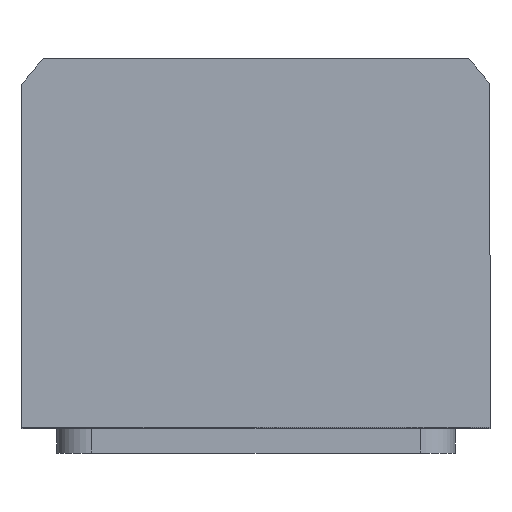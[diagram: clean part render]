
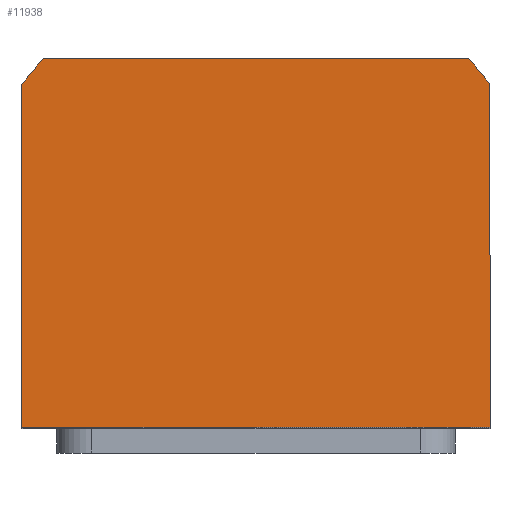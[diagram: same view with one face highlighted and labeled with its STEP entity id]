
A CAD part, top view. The second image highlights one B-rep face of the part: STEP entity #11938.
In plain terms, the highlighted planar face has unit normal (0, 0, 1).
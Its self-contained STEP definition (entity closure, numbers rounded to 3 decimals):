
#257 = VERTEX_POINT ( 'NONE', #1878 ) ;
#332 = CARTESIAN_POINT ( 'NONE',  ( -42.688, 40., 80. ) ) ;
#372 = CARTESIAN_POINT ( 'NONE',  ( 0., 0., 80. ) ) ;
#408 = VERTEX_POINT ( 'NONE', #8198 ) ;
#1301 = LINE ( 'NONE', #2437, #13376 ) ;
#1420 = CARTESIAN_POINT ( 'NONE',  ( -42.688, 40., 80. ) ) ;
#1878 = CARTESIAN_POINT ( 'NONE',  ( -47., -34., 80. ) ) ;
#2437 = CARTESIAN_POINT ( 'NONE',  ( 47., -34., 80. ) ) ;
#2455 = FACE_OUTER_BOUND ( 'NONE', #7768, .T. ) ;
#2584 = EDGE_CURVE ( 'NONE', #408, #5056, #10262, .T. ) ;
#2650 = VECTOR ( 'NONE', #13106, 1000. ) ;
#3562 = VECTOR ( 'NONE', #12002, 1000. ) ;
#3828 = EDGE_CURVE ( 'NONE', #257, #8797, #1301, .T. ) ;
#3890 = DIRECTION ( 'NONE',  ( 0., 0., 1. ) ) ;
#3894 = LINE ( 'NONE', #9863, #14834 ) ;
#4189 = CARTESIAN_POINT ( 'NONE',  ( 47., -34., 80. ) ) ;
#4365 = CARTESIAN_POINT ( 'NONE',  ( 0., 0., 80. ) ) ;
#4483 = LINE ( 'NONE', #7165, #2650 ) ;
#4997 = PLANE ( 'NONE',  #12867 ) ;
#5056 = VERTEX_POINT ( 'NONE', #13693 ) ;
#5461 = DIRECTION ( 'NONE',  ( 0., 0., 1. ) ) ;
#6100 = DIRECTION ( 'NONE',  ( 1., 0., 0. ) ) ;
#6160 = DIRECTION ( 'NONE',  ( 1., 0., 0. ) ) ;
#6907 = EDGE_CURVE ( 'NONE', #10527, #257, #3894, .T. ) ;
#7165 = CARTESIAN_POINT ( 'NONE',  ( 47., 34.832, 80. ) ) ;
#7461 = CARTESIAN_POINT ( 'NONE',  ( 0., 0., 80. ) ) ;
#7768 = EDGE_LOOP ( 'NONE', ( #10510, #10995, #11384, #9567, #13105, #8998 ) ) ;
#7818 = DIRECTION ( 'NONE',  ( 1., 0., 0. ) ) ;
#8198 = CARTESIAN_POINT ( 'NONE',  ( 47., 34.832, 80. ) ) ;
#8487 = EDGE_CURVE ( 'NONE', #9604, #10527, #11123, .T. ) ;
#8512 = DIRECTION ( 'NONE',  ( 0., 0., 1. ) ) ;
#8797 = VERTEX_POINT ( 'NONE', #4189 ) ;
#8843 = DIRECTION ( 'NONE',  ( 1., 0., 0. ) ) ;
#8998 = ORIENTED_EDGE ( 'NONE', *, *, #6907, .T. ) ;
#9567 = ORIENTED_EDGE ( 'NONE', *, *, #11281, .T. ) ;
#9604 = VERTEX_POINT ( 'NONE', #332 ) ;
#9863 = CARTESIAN_POINT ( 'NONE',  ( -47., -34., 80. ) ) ;
#10262 = CIRCLE ( 'NONE', #13793, 58.5 ) ;
#10383 = EDGE_CURVE ( 'NONE', #8797, #408, #4483, .T. ) ;
#10510 = ORIENTED_EDGE ( 'NONE', *, *, #3828, .T. ) ;
#10527 = VERTEX_POINT ( 'NONE', #11772 ) ;
#10995 = ORIENTED_EDGE ( 'NONE', *, *, #10383, .T. ) ;
#11123 = CIRCLE ( 'NONE', #15176, 58.5 ) ;
#11281 = EDGE_CURVE ( 'NONE', #5056, #9604, #12694, .T. ) ;
#11384 = ORIENTED_EDGE ( 'NONE', *, *, #2584, .T. ) ;
#11772 = CARTESIAN_POINT ( 'NONE',  ( -47., 34.832, 80. ) ) ;
#11938 = ADVANCED_FACE ( 'NONE', ( #2455 ), #4997, .T. ) ;
#12002 = DIRECTION ( 'NONE',  ( -1., 0., 0. ) ) ;
#12694 = LINE ( 'NONE', #1420, #3562 ) ;
#12867 = AXIS2_PLACEMENT_3D ( 'NONE', #372, #8512, #6160 ) ;
#13105 = ORIENTED_EDGE ( 'NONE', *, *, #8487, .T. ) ;
#13106 = DIRECTION ( 'NONE',  ( 0., 1., 0. ) ) ;
#13376 = VECTOR ( 'NONE', #8843, 1000. ) ;
#13693 = CARTESIAN_POINT ( 'NONE',  ( 42.688, 40., 80. ) ) ;
#13793 = AXIS2_PLACEMENT_3D ( 'NONE', #7461, #3890, #6100 ) ;
#14565 = DIRECTION ( 'NONE',  ( 0., -1., 0. ) ) ;
#14834 = VECTOR ( 'NONE', #14565, 1000. ) ;
#15176 = AXIS2_PLACEMENT_3D ( 'NONE', #4365, #5461, #7818 ) ;
